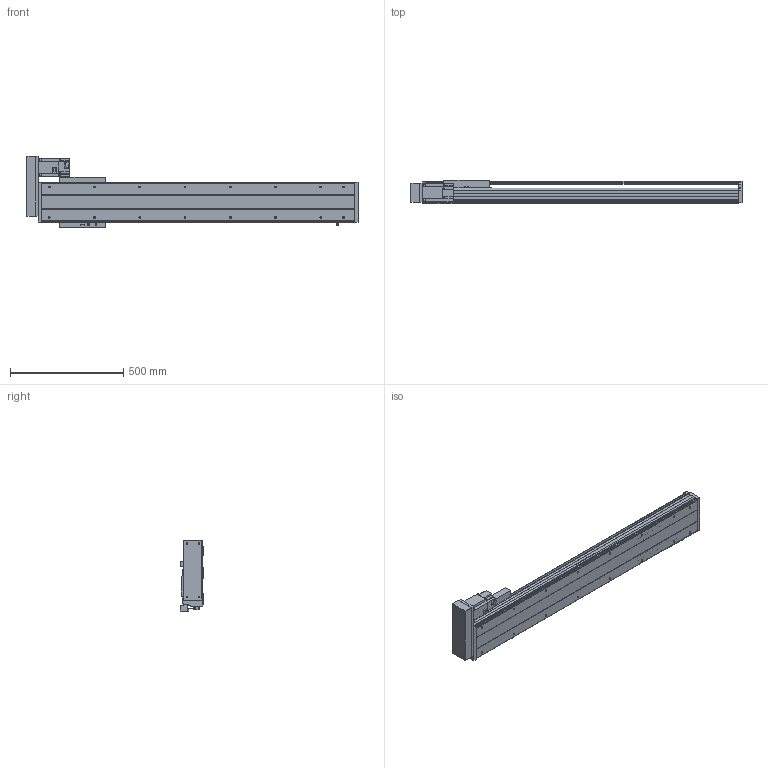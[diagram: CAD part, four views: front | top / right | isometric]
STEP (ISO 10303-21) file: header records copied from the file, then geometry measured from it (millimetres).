
FILE_DESCRIPTION( ( 'STEP AP214' ), '1' );
FILE_NAME( 'x:/temp/worker_27/temp/exporttempdir_6708_448_oCzWc/format_0/PSS200-L10-S1050-BL-T75-C1-N(0).stp', '2022-06-06T02:50:35', ( 'License CC BY-ND 4.0' ), ( 'CADENAS' ), ' ', 'PARTsolutions', ' ' );
FILE_SCHEMA( ( 'AUTOMOTIVE_DESIGN { 1 0 10303 214 1 1 1 1 }' ) );
Length unit declared in the file: millimetre
Products named in the file (8): PSS200-L10-S1050-BL-T75-C1-N(0); _PSS200-S1050-BL-C1-N_body; _PSS200-N_Q; _PSS200-BL-C1-N_sl; _PSS200-N_sensor; _PSS200BL-N_h; _T75-p1; _PSS200-S1050-BL-N_S
Assembly tree (9 placements, depth 2):
  PSS200-L10-S1050-BL-T75-C1-N(0)
    _PSS200-S1050-BL-C1-N_body
    _PSS200-N_Q
    _PSS200-BL-C1-N_sl
    _PSS200-N_sensor  x3
    _PSS200BL-N_h
    _T75-p1
    _PSS200-S1050-BL-N_S
Bounding box: 1466.85 x 105.3 x 317.86 mm (x, y, z)
Volume: 9643243.2 mm3; surface area: 2292343.7 mm2
Topology: 9 solids, 9 shells, 612 faces, 1633 edges, 1078 vertices
Faces by surface type: plane 466, cylinder 118, cone 24, sphere 4
Full cylindrical faces by diameter (mm): 4 x2, 4.5 x4, 6 x7, 6.647 x20, 7.4 x4, 8 x8, 10 x6, 25 x1, 40 x1, 67 x1
Entity records: 21350 total; most frequent: CARTESIAN_POINT 2907, DIRECTION 2812, ORIENTED_EDGE 2762, EDGE_CURVE 1381, LINE 1090, VECTOR 1090, VERTEX_POINT 956, AXIS2_PLACEMENT_3D 861
